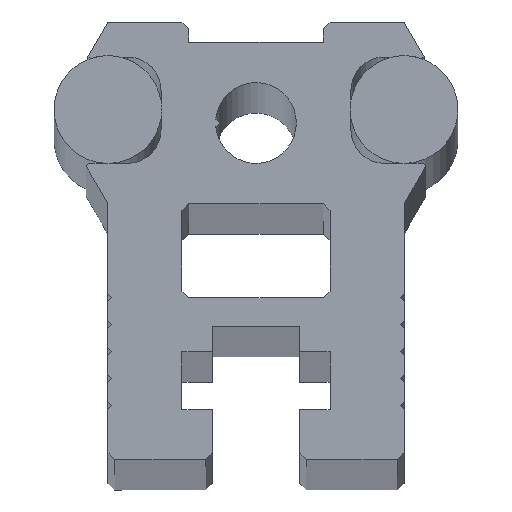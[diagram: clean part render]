
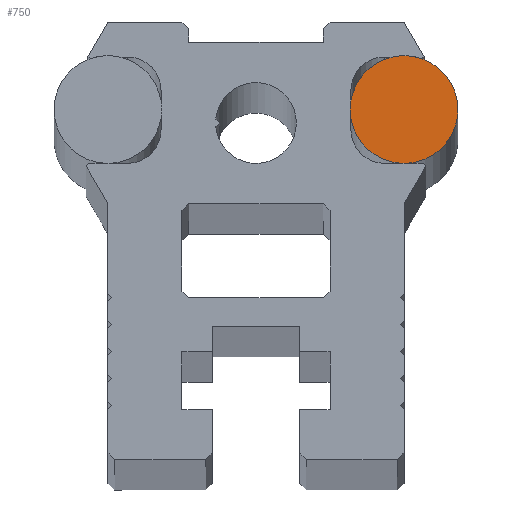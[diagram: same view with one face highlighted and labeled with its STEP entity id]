
A CAD part, top view. The second image highlights one B-rep face of the part: STEP entity #750.
In plain terms, the highlighted planar face has unit normal (0, 0, 1).
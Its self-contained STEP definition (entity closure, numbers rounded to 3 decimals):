
#111 = VERTEX_POINT ( 'NONE', #1810 ) ;
#218 = EDGE_CURVE ( 'NONE', #219, #111, #1834, .T. ) ;
#219 = VERTEX_POINT ( 'NONE', #1829 ) ;
#326 = VERTEX_POINT ( 'NONE', #2127 ) ;
#328 = EDGE_CURVE ( 'NONE', #111, #326, #2125, .T. ) ;
#334 = VERTEX_POINT ( 'NONE', #2110 ) ;
#336 = EDGE_CURVE ( 'NONE', #337, #334, #2109, .T. ) ;
#337 = VERTEX_POINT ( 'NONE', #2007 ) ;
#348 = VERTEX_POINT ( 'NONE', #1985 ) ;
#350 = EDGE_CURVE ( 'NONE', #348, #351, #1984, .T. ) ;
#351 = VERTEX_POINT ( 'NONE', #1979 ) ;
#747 = EDGE_CURVE ( 'NONE', #348, #219, #2619, .T. ) ;
#750 = ADVANCED_FACE ( 'NONE', ( #2610 ), #2609, .T. ) ;
#751 = EDGE_LOOP ( 'NONE', ( #752, #753, #754, #902, #903, #904, #905 ) ) ;
#752 = ORIENTED_EDGE ( 'NONE', *, *, #836, .T. ) ;
#753 = ORIENTED_EDGE ( 'NONE', *, *, #336, .T. ) ;
#754 = ORIENTED_EDGE ( 'NONE', *, *, #843, .T. ) ;
#836 = EDGE_CURVE ( 'NONE', #326, #337, #2439, .T. ) ;
#843 = EDGE_CURVE ( 'NONE', #334, #351, #2395, .T. ) ;
#902 = ORIENTED_EDGE ( 'NONE', *, *, #350, .F. ) ;
#903 = ORIENTED_EDGE ( 'NONE', *, *, #747, .T. ) ;
#904 = ORIENTED_EDGE ( 'NONE', *, *, #218, .T. ) ;
#905 = ORIENTED_EDGE ( 'NONE', *, *, #328, .T. ) ;
#1810 = CARTESIAN_POINT ( 'NONE',  ( 15., 26., -1.5 ) ) ;
#1829 = CARTESIAN_POINT ( 'NONE',  ( 11.25, 22.008, -1.5 ) ) ;
#1830 = DIRECTION ( 'NONE',  ( 1., 0., 0. ) ) ;
#1831 = DIRECTION ( 'NONE',  ( 0., 0., 1. ) ) ;
#1832 = CARTESIAN_POINT ( 'NONE',  ( 11., 26., -1.5 ) ) ;
#1833 = AXIS2_PLACEMENT_3D ( 'NONE', #1832, #1831, #1830 ) ;
#1834 = CIRCLE ( 'NONE', #1833, 4. ) ;
#1979 = CARTESIAN_POINT ( 'NONE',  ( 7.05, 25.37, -1.5 ) ) ;
#1980 = DIRECTION ( 'NONE',  ( 1., 0., 0. ) ) ;
#1981 = DIRECTION ( 'NONE',  ( 0., 0., -1. ) ) ;
#1982 = CARTESIAN_POINT ( 'NONE',  ( 11., 26., -1.5 ) ) ;
#1983 = AXIS2_PLACEMENT_3D ( 'NONE', #1982, #1981, #1980 ) ;
#1984 = CIRCLE ( 'NONE', #1983, 4. ) ;
#1985 = CARTESIAN_POINT ( 'NONE',  ( 10.75, 22.008, -1.5 ) ) ;
#2007 = CARTESIAN_POINT ( 'NONE',  ( 10.111, 29.9, -1.5 ) ) ;
#2008 = DIRECTION ( 'NONE',  ( 1., 0., 0. ) ) ;
#2106 = DIRECTION ( 'NONE',  ( 0., 0., 1. ) ) ;
#2107 = CARTESIAN_POINT ( 'NONE',  ( 11., 26., -1.5 ) ) ;
#2108 = AXIS2_PLACEMENT_3D ( 'NONE', #2107, #2106, #2008 ) ;
#2109 = CIRCLE ( 'NONE', #2108, 4. ) ;
#2110 = CARTESIAN_POINT ( 'NONE',  ( 7.05, 26.63, -1.5 ) ) ;
#2121 = DIRECTION ( 'NONE',  ( 1., 0., 0. ) ) ;
#2122 = DIRECTION ( 'NONE',  ( 0., 0., 1. ) ) ;
#2123 = CARTESIAN_POINT ( 'NONE',  ( 11., 26., -1.5 ) ) ;
#2124 = AXIS2_PLACEMENT_3D ( 'NONE', #2123, #2122, #2121 ) ;
#2125 = CIRCLE ( 'NONE', #2124, 4. ) ;
#2127 = CARTESIAN_POINT ( 'NONE',  ( 12.324, 29.775, -1.5 ) ) ;
#2394 = CARTESIAN_POINT ( 'NONE',  ( 11., 26., -1.5 ) ) ;
#2395 = CIRCLE ( 'NONE', #2428, 4. ) ;
#2428 = AXIS2_PLACEMENT_3D ( 'NONE', #2394, #2743, #2742 ) ;
#2435 = DIRECTION ( 'NONE',  ( 1., 0., 0. ) ) ;
#2436 = DIRECTION ( 'NONE',  ( 0., 0., 1. ) ) ;
#2437 = CARTESIAN_POINT ( 'NONE',  ( 11., 26., -1.5 ) ) ;
#2438 = AXIS2_PLACEMENT_3D ( 'NONE', #2437, #2436, #2435 ) ;
#2439 = CIRCLE ( 'NONE', #2438, 4. ) ;
#2605 = DIRECTION ( 'NONE',  ( 1., 0., 0. ) ) ;
#2606 = DIRECTION ( 'NONE',  ( 0., 0., 1. ) ) ;
#2607 = CARTESIAN_POINT ( 'NONE',  ( 11., 26., -1.5 ) ) ;
#2608 = AXIS2_PLACEMENT_3D ( 'NONE', #2607, #2606, #2605 ) ;
#2609 = PLANE ( 'NONE',  #2608 ) ;
#2610 = FACE_OUTER_BOUND ( 'NONE', #751, .T. ) ;
#2611 = DIRECTION ( 'NONE',  ( 1., 0., 0. ) ) ;
#2612 = DIRECTION ( 'NONE',  ( 0., 0., 1. ) ) ;
#2613 = CARTESIAN_POINT ( 'NONE',  ( 11., 26., -1.5 ) ) ;
#2614 = AXIS2_PLACEMENT_3D ( 'NONE', #2613, #2612, #2611 ) ;
#2619 = CIRCLE ( 'NONE', #2614, 4. ) ;
#2742 = DIRECTION ( 'NONE',  ( 1., 0., 0. ) ) ;
#2743 = DIRECTION ( 'NONE',  ( 0., 0., 1. ) ) ;
